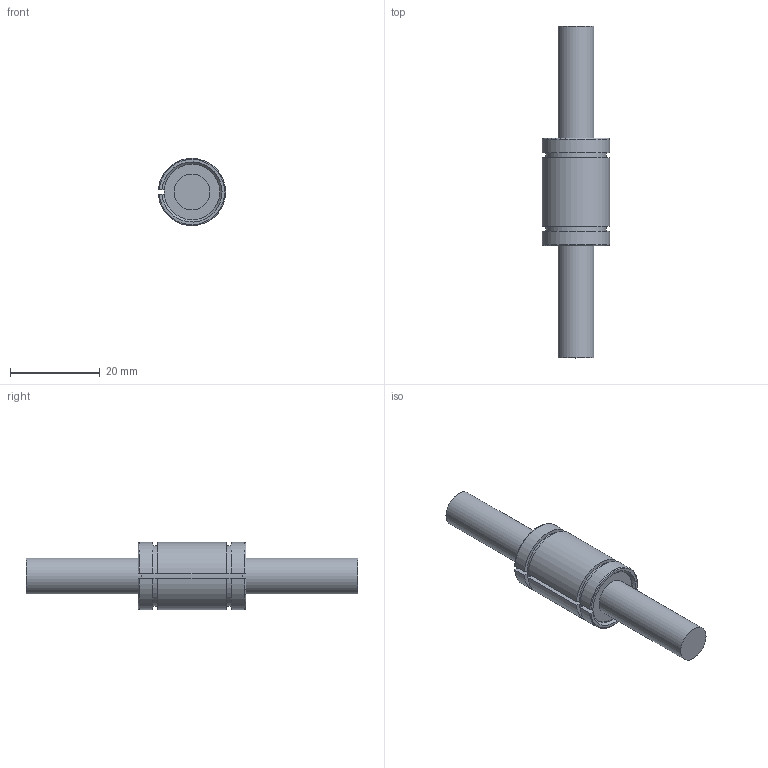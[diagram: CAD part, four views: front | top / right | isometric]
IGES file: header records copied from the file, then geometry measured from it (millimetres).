
Global section: file name: No Iges File Name specified; native system: Autodesk Inventor 2012; preprocessor: AutoDesk Inventor Iges Exporter R2012; author: user2; date: 20130206.101423; units: millimetre
Bounding box: 14.98 x 74 x 14.99 mm (x, y, z)
Volume: 6537.2 mm3; surface area: 2982.8 mm2
Topology: 1 solids, 1 shells, 26 faces, 64 edges, 42 vertices
Faces by surface type: plane 12, cylinder 8, revolution 4, torus 2
Full cylindrical faces by diameter (mm): 8 x2
